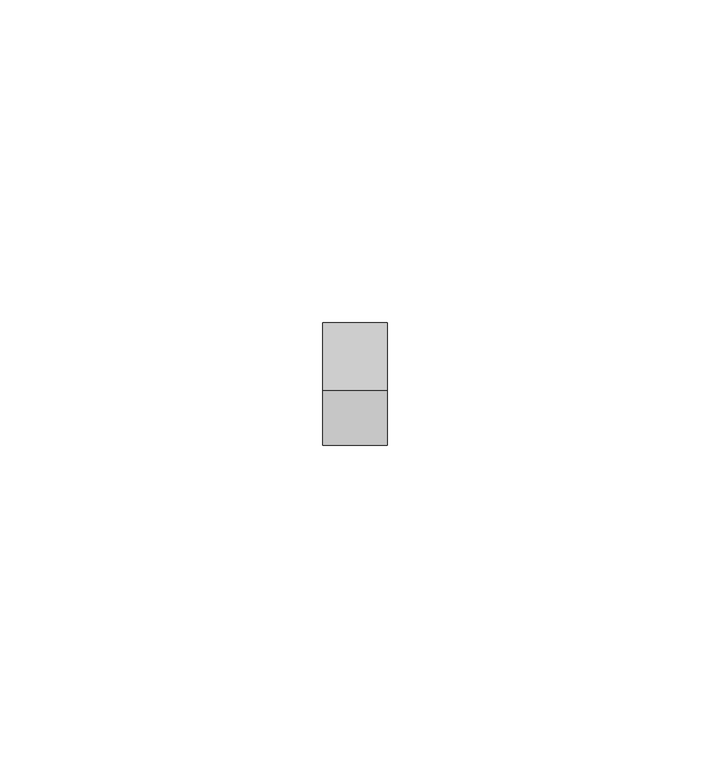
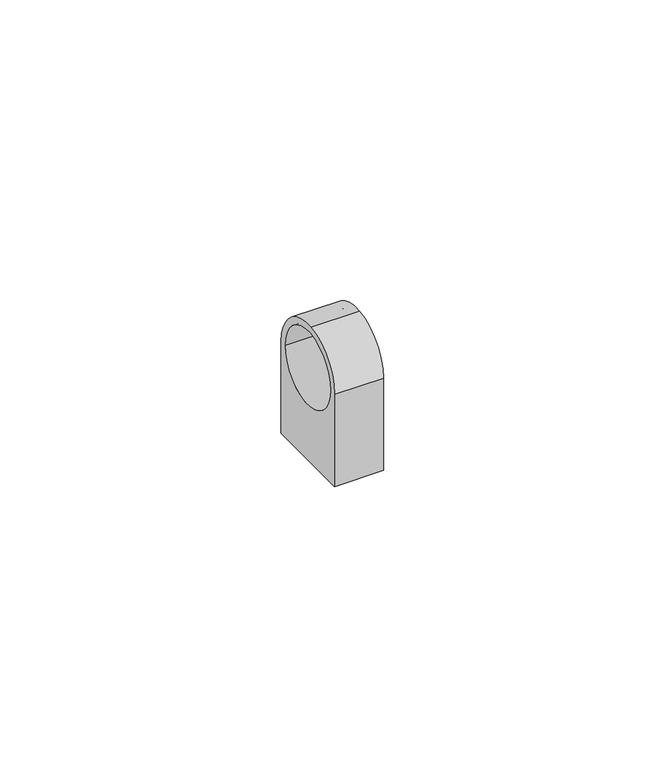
"""IFC4 building model written with IfcOpenShell, lengths in millimetres: cable carrier fitting geometry, Хомутный держатель CFC : CTA10D-CFC16-K41-100."""

from ifc_helpers import new_model, si_unit, point, frame, origin, origin_2d, place, context, project, spatial, polyline, circle_curve, trimmed, segment, composite_curve, outline, extrude, source, transform, mapped, element, save


def cable_carrier_fitting_85420fde(model_context):
    return source(origin(), model_context, "Body", "SweptSolid", [
        extrude(outline(composite_curve([segment(polyline([(-9.5, -20.0), (-9.5, 0.0)]), True, "CONTINUOUS"), segment(trimmed(circle_curve(origin_2d(), 9.5), [point((-9.5, 0.0))], [point((-1.0483988, 9.4419733))], False, "CARTESIAN"), True, "CONTINUOUS"), segment(trimmed(circle_curve(origin_2d(), 9.5), [point((-1.0483988, 9.4419733))], [point((9.5, 0.0))], False, "CARTESIAN"), True, "CONTINUOUS"), segment(polyline([(9.5, 0.0), (9.5, -20.0), (-9.5, -20.0)]), True, "CONTINUOUS")], self_intersect=False), holes=[composite_curve([segment(trimmed(circle_curve(origin_2d(), 8.0), [point((-8.0, 0.0))], [point((8.0, 0.0))], True, "CARTESIAN"), True, "CONTINUOUS"), segment(trimmed(circle_curve(origin_2d(), 8.0), [point((8.0, 0.0))], [point((-8.0, 0.0))], True, "CARTESIAN"), True, "CONTINUOUS")], self_intersect=False)]), frame((-5.0, 0.0, 0.0), z_axis=(1.0, 0.0, 0.0), x_axis=(0.0, 1.0, 0.0)), (0.0, 0.0, 1.0), 10.0),
    ])


if __name__ == "__main__":
    model = new_model("IFC4")
    model_context = context("Model", 3, world=origin())
    ifc_project = project(units=[si_unit("LENGTHUNIT", "METRE", prefix="MILLI")], contexts=[model_context])
    site = spatial("IfcSite", under=ifc_project)
    building = spatial("IfcBuilding", under=site)
    placement = place(None, origin())
    cable_carrier_fitting_shape = cable_carrier_fitting_85420fde(model_context)
    element("IfcCableCarrierFitting", 1, ObjectType="Хомутный держатель CFC : CTA10D-CFC16-K41-100", at=placement, inside=building, context=model_context, shape_type="MappedRepresentation", body=[
        mapped(cable_carrier_fitting_shape, transform((0.0, 0.0, 0.0), x_axis=(1.0, 0.0, 0.0), y_axis=(0.0, 1.0, 0.0), z_axis=(0.0, 0.0, 1.0))),
    ])
    save(model, "model.ifc")
